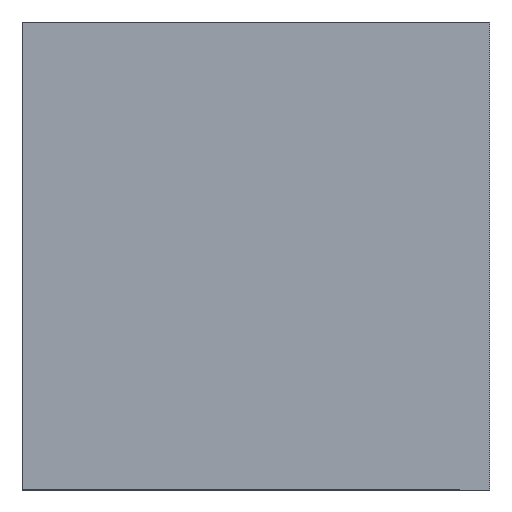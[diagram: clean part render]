
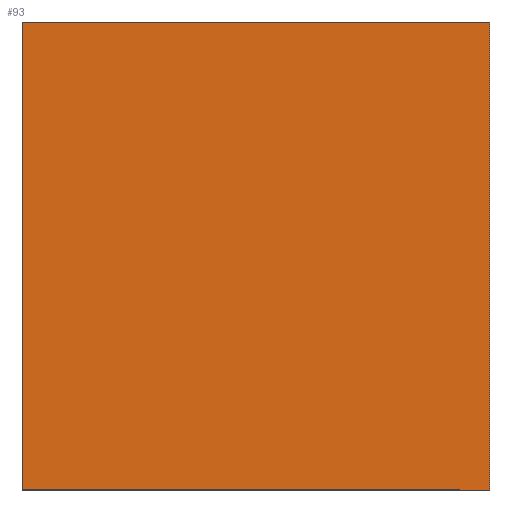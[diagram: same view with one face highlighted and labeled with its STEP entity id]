
A CAD part, front view. The second image highlights one B-rep face of the part: STEP entity #93.
In plain terms, the highlighted planar face has unit normal (0, -1, 0).
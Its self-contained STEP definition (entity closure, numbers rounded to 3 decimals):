
#93 = ADVANCED_FACE( '', ( #177 ), #178, .F. );
#177 = FACE_OUTER_BOUND( '', #249, .T. );
#178 = PLANE( '', #250 );
#249 = EDGE_LOOP( '', ( #379, #380, #381, #382 ) );
#250 = AXIS2_PLACEMENT_3D( '', #383, #384, #385 );
#379 = ORIENTED_EDGE( '', *, *, #462, .F. );
#380 = ORIENTED_EDGE( '', *, *, #463, .F. );
#381 = ORIENTED_EDGE( '', *, *, #425, .F. );
#382 = ORIENTED_EDGE( '', *, *, #437, .F. );
#383 = CARTESIAN_POINT( '', ( 0., -25., 0. ) );
#384 = DIRECTION( '', ( 0., 1., 0. ) );
#385 = DIRECTION( '', ( 0., 0., 1. ) );
#425 = EDGE_CURVE( '', #490, #492, #493, .T. );
#437 = EDGE_CURVE( '', #509, #490, #511, .T. );
#462 = EDGE_CURVE( '', #543, #509, #544, .T. );
#463 = EDGE_CURVE( '', #492, #543, #545, .T. );
#490 = VERTEX_POINT( '', #581 );
#492 = VERTEX_POINT( '', #584 );
#493 = LINE( '', #585, #586 );
#509 = VERTEX_POINT( '', #607 );
#511 = LINE( '', #610, #611 );
#543 = VERTEX_POINT( '', #658 );
#544 = LINE( '', #659, #660 );
#545 = LINE( '', #661, #662 );
#581 = CARTESIAN_POINT( '', ( -5., -25., 5. ) );
#584 = CARTESIAN_POINT( '', ( 5., -25., 5. ) );
#585 = CARTESIAN_POINT( '', ( -5., -25., 5. ) );
#586 = VECTOR( '', #678, 1000. );
#607 = CARTESIAN_POINT( '', ( -5., -25., -5. ) );
#610 = CARTESIAN_POINT( '', ( -5., -25., -5. ) );
#611 = VECTOR( '', #691, 1000. );
#658 = CARTESIAN_POINT( '', ( 5., -25., -5. ) );
#659 = CARTESIAN_POINT( '', ( 5., -25., -5. ) );
#660 = VECTOR( '', #707, 1000. );
#661 = CARTESIAN_POINT( '', ( 5., -25., 5. ) );
#662 = VECTOR( '', #708, 1000. );
#678 = DIRECTION( '', ( 1., 0., 0. ) );
#691 = DIRECTION( '', ( 0., 0., 1. ) );
#707 = DIRECTION( '', ( -1., 0., 0. ) );
#708 = DIRECTION( '', ( 0., 0., -1. ) );
